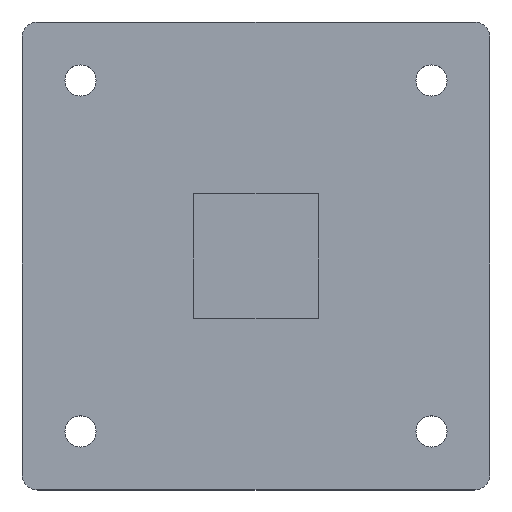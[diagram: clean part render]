
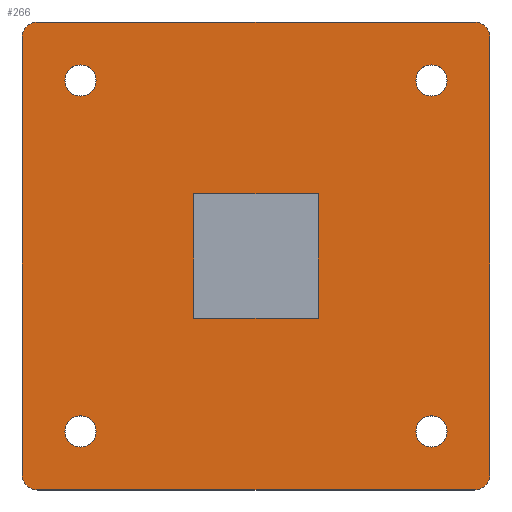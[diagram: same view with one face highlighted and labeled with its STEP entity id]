
A CAD part, top view. The second image highlights one B-rep face of the part: STEP entity #266.
In plain terms, the highlighted planar face has unit normal (0, 0, 1).
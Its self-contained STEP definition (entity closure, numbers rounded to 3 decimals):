
#248 = EDGE_CURVE( '', #274, #424, #712, .T. );
#252 = VERTEX_POINT( '', #716 );
#266 = ADVANCED_FACE( '', ( #730, #731, #732, #733, #734, #735 ), #736, .T. );
#268 = EDGE_CURVE( '', #296, #274, #738, .T. );
#274 = VERTEX_POINT( '', #745 );
#286 = EDGE_CURVE( '', #340, #296, #758, .T. );
#296 = VERTEX_POINT( '', #769 );
#300 = VERTEX_POINT( '', #774 );
#306 = EDGE_CURVE( '', #252, #648, #780, .T. );
#308 = EDGE_CURVE( '', #342, #340, #782, .T. );
#334 = EDGE_CURVE( '', #364, #342, #810, .T. );
#340 = VERTEX_POINT( '', #816 );
#342 = VERTEX_POINT( '', #818 );
#358 = EDGE_CURVE( '', #384, #364, #836, .T. );
#364 = VERTEX_POINT( '', #843 );
#382 = EDGE_CURVE( '', #420, #384, #861, .T. );
#384 = VERTEX_POINT( '', #863 );
#394 = VERTEX_POINT( '', #875 );
#416 = EDGE_CURVE( '', #424, #420, #898, .T. );
#420 = VERTEX_POINT( '', #902 );
#424 = VERTEX_POINT( '', #907 );
#430 = EDGE_CURVE( '', #660, #548, #913, .T. );
#432 = EDGE_CURVE( '', #672, #584, #915, .T. );
#436 = EDGE_CURVE( '', #394, #300, #919, .T. );
#444 = EDGE_CURVE( '', #648, #252, #927, .T. );
#446 = EDGE_CURVE( '', #584, #672, #929, .T. );
#464 = EDGE_CURVE( '', #494, #592, #950, .T. );
#486 = EDGE_CURVE( '', #538, #494, #973, .T. );
#494 = VERTEX_POINT( '', #982 );
#522 = EDGE_CURVE( '', #548, #660, #1013, .T. );
#530 = EDGE_CURVE( '', #582, #538, #1023, .T. );
#538 = VERTEX_POINT( '', #1032 );
#548 = VERTEX_POINT( '', #1042 );
#556 = EDGE_CURVE( '', #300, #394, #1052, .T. );
#572 = EDGE_CURVE( '', #592, #582, #1070, .T. );
#582 = VERTEX_POINT( '', #1081 );
#584 = VERTEX_POINT( '', #1083 );
#592 = VERTEX_POINT( '', #1092 );
#648 = VERTEX_POINT( '', #1164 );
#660 = VERTEX_POINT( '', #1176 );
#672 = VERTEX_POINT( '', #1189 );
#712 = CIRCLE( '', #1223, 2. );
#716 = CARTESIAN_POINT( '', ( -24.5, 22.5, 0. ) );
#730 = FACE_BOUND( '', #1250, .T. );
#731 = FACE_OUTER_BOUND( '', #1251, .T. );
#732 = FACE_BOUND( '', #1252, .T. );
#733 = FACE_BOUND( '', #1253, .T. );
#734 = FACE_BOUND( '', #1254, .T. );
#735 = FACE_BOUND( '', #1255, .T. );
#736 = PLANE( '', #1256 );
#738 = LINE( '', #1259, #1260 );
#745 = CARTESIAN_POINT( '', ( -28., -30., 0. ) );
#758 = CIRCLE( '', #1285, 2. );
#769 = CARTESIAN_POINT( '', ( 28., -30., 0. ) );
#774 = CARTESIAN_POINT( '', ( -24.5, -22.5, 0. ) );
#780 = CIRCLE( '', #1317, 2. );
#782 = LINE( '', #1320, #1321 );
#810 = CIRCLE( '', #1360, 2. );
#816 = CARTESIAN_POINT( '', ( 30., -28., 0. ) );
#818 = CARTESIAN_POINT( '', ( 30., 28., 0. ) );
#836 = LINE( '', #1397, #1398 );
#843 = CARTESIAN_POINT( '', ( 28., 30., 0. ) );
#861 = CIRCLE( '', #1436, 2. );
#863 = CARTESIAN_POINT( '', ( -28., 30., 0. ) );
#875 = CARTESIAN_POINT( '', ( -20.5, -22.5, 0. ) );
#898 = LINE( '', #1485, #1486 );
#902 = CARTESIAN_POINT( '', ( -30., 28., 0. ) );
#907 = CARTESIAN_POINT( '', ( -30., -28., 0. ) );
#913 = CIRCLE( '', #1502, 2. );
#915 = CIRCLE( '', #1505, 2. );
#919 = CIRCLE( '', #1512, 2. );
#927 = CIRCLE( '', #1527, 2. );
#929 = CIRCLE( '', #1530, 2. );
#950 = LINE( '', #1557, #1558 );
#973 = LINE( '', #1588, #1589 );
#982 = CARTESIAN_POINT( '', ( 8., 8., 0. ) );
#1013 = CIRCLE( '', #1647, 2. );
#1023 = LINE( '', #1660, #1661 );
#1032 = CARTESIAN_POINT( '', ( -8., 8., 0. ) );
#1042 = CARTESIAN_POINT( '', ( 20.5, -22.5, 0. ) );
#1052 = CIRCLE( '', #1699, 2. );
#1070 = LINE( '', #1723, #1724 );
#1081 = CARTESIAN_POINT( '', ( -8., -8., 0. ) );
#1083 = CARTESIAN_POINT( '', ( 20.5, 22.5, 0. ) );
#1092 = CARTESIAN_POINT( '', ( 8., -8., 0. ) );
#1164 = CARTESIAN_POINT( '', ( -20.5, 22.5, 0. ) );
#1176 = CARTESIAN_POINT( '', ( 24.5, -22.5, 0. ) );
#1189 = CARTESIAN_POINT( '', ( 24.5, 22.5, 0. ) );
#1223 = AXIS2_PLACEMENT_3D( '', #1917, #1918, #1919 );
#1250 = EDGE_LOOP( '', ( #1927, #1928, #1929, #1930 ) );
#1251 = EDGE_LOOP( '', ( #1931, #1932, #1933, #1934, #1935, #1936, #1937, #1938 ) );
#1252 = EDGE_LOOP( '', ( #1939, #1940 ) );
#1253 = EDGE_LOOP( '', ( #1941, #1942 ) );
#1254 = EDGE_LOOP( '', ( #1943, #1944 ) );
#1255 = EDGE_LOOP( '', ( #1945, #1946 ) );
#1256 = AXIS2_PLACEMENT_3D( '', #1947, #1948, #1949 );
#1259 = CARTESIAN_POINT( '', ( -28., -30., 0. ) );
#1260 = VECTOR( '', #1950, 1. );
#1285 = AXIS2_PLACEMENT_3D( '', #1969, #1970, #1971 );
#1317 = AXIS2_PLACEMENT_3D( '', #1995, #1996, #1997 );
#1320 = CARTESIAN_POINT( '', ( 30., -28., 0. ) );
#1321 = VECTOR( '', #1998, 1. );
#1360 = AXIS2_PLACEMENT_3D( '', #2020, #2021, #2022 );
#1397 = CARTESIAN_POINT( '', ( 28., 30., 0. ) );
#1398 = VECTOR( '', #2044, 1. );
#1436 = AXIS2_PLACEMENT_3D( '', #2059, #2060, #2061 );
#1485 = CARTESIAN_POINT( '', ( -30., 28., 0. ) );
#1486 = VECTOR( '', #2090, 1. );
#1502 = AXIS2_PLACEMENT_3D( '', #2099, #2100, #2101 );
#1505 = AXIS2_PLACEMENT_3D( '', #2102, #2103, #2104 );
#1512 = AXIS2_PLACEMENT_3D( '', #2106, #2107, #2108 );
#1527 = AXIS2_PLACEMENT_3D( '', #2112, #2113, #2114 );
#1530 = AXIS2_PLACEMENT_3D( '', #2115, #2116, #2117 );
#1557 = CARTESIAN_POINT( '', ( 8., 4., 0. ) );
#1558 = VECTOR( '', #2147, 1. );
#1588 = CARTESIAN_POINT( '', ( -4., 8., 0. ) );
#1589 = VECTOR( '', #2159, 1. );
#1647 = AXIS2_PLACEMENT_3D( '', #2203, #2204, #2205 );
#1660 = CARTESIAN_POINT( '', ( -8., -4., 0. ) );
#1661 = VECTOR( '', #2219, 1. );
#1699 = AXIS2_PLACEMENT_3D( '', #2248, #2249, #2250 );
#1723 = CARTESIAN_POINT( '', ( 4., -8., 0. ) );
#1724 = VECTOR( '', #2272, 1. );
#1917 = CARTESIAN_POINT( '', ( -28., -28., 0. ) );
#1918 = DIRECTION( '', ( 0., 0., -1. ) );
#1919 = DIRECTION( '', ( -1., 0., 0. ) );
#1927 = ORIENTED_EDGE( '', *, *, #486, .T. );
#1928 = ORIENTED_EDGE( '', *, *, #464, .T. );
#1929 = ORIENTED_EDGE( '', *, *, #572, .T. );
#1930 = ORIENTED_EDGE( '', *, *, #530, .T. );
#1931 = ORIENTED_EDGE( '', *, *, #416, .F. );
#1932 = ORIENTED_EDGE( '', *, *, #248, .F. );
#1933 = ORIENTED_EDGE( '', *, *, #268, .F. );
#1934 = ORIENTED_EDGE( '', *, *, #286, .F. );
#1935 = ORIENTED_EDGE( '', *, *, #308, .F. );
#1936 = ORIENTED_EDGE( '', *, *, #334, .F. );
#1937 = ORIENTED_EDGE( '', *, *, #358, .F. );
#1938 = ORIENTED_EDGE( '', *, *, #382, .F. );
#1939 = ORIENTED_EDGE( '', *, *, #430, .F. );
#1940 = ORIENTED_EDGE( '', *, *, #522, .F. );
#1941 = ORIENTED_EDGE( '', *, *, #432, .F. );
#1942 = ORIENTED_EDGE( '', *, *, #446, .F. );
#1943 = ORIENTED_EDGE( '', *, *, #436, .F. );
#1944 = ORIENTED_EDGE( '', *, *, #556, .F. );
#1945 = ORIENTED_EDGE( '', *, *, #444, .F. );
#1946 = ORIENTED_EDGE( '', *, *, #306, .F. );
#1947 = CARTESIAN_POINT( '', ( 0., 0., 0. ) );
#1948 = DIRECTION( '', ( 0., 0., 1. ) );
#1949 = DIRECTION( '', ( 1., 0., 0. ) );
#1950 = DIRECTION( '', ( -1., 0., 0. ) );
#1969 = CARTESIAN_POINT( '', ( 28., -28., 0. ) );
#1970 = DIRECTION( '', ( 0., 0., -1. ) );
#1971 = DIRECTION( '', ( 0., -1., 0. ) );
#1995 = CARTESIAN_POINT( '', ( -22.5, 22.5, 0. ) );
#1996 = DIRECTION( '', ( 0., 0., 1. ) );
#1997 = DIRECTION( '', ( 1., 0., 0. ) );
#1998 = DIRECTION( '', ( 0., -1., 0. ) );
#2020 = CARTESIAN_POINT( '', ( 28., 28., 0. ) );
#2021 = DIRECTION( '', ( 0., 0., -1. ) );
#2022 = DIRECTION( '', ( 1., 0., 0. ) );
#2044 = DIRECTION( '', ( 1., 0., 0. ) );
#2059 = CARTESIAN_POINT( '', ( -28., 28., 0. ) );
#2060 = DIRECTION( '', ( 0., 0., -1. ) );
#2061 = DIRECTION( '', ( 0., 1., 0. ) );
#2090 = DIRECTION( '', ( 0., 1., 0. ) );
#2099 = CARTESIAN_POINT( '', ( 22.5, -22.5, 0. ) );
#2100 = DIRECTION( '', ( 0., 0., 1. ) );
#2101 = DIRECTION( '', ( 1., 0., 0. ) );
#2102 = CARTESIAN_POINT( '', ( 22.5, 22.5, 0. ) );
#2103 = DIRECTION( '', ( 0., 0., 1. ) );
#2104 = DIRECTION( '', ( 1., 0., 0. ) );
#2106 = CARTESIAN_POINT( '', ( -22.5, -22.5, 0. ) );
#2107 = DIRECTION( '', ( 0., 0., 1. ) );
#2108 = DIRECTION( '', ( 1., 0., 0. ) );
#2112 = CARTESIAN_POINT( '', ( -22.5, 22.5, 0. ) );
#2113 = DIRECTION( '', ( 0., 0., 1. ) );
#2114 = DIRECTION( '', ( 1., 0., 0. ) );
#2115 = CARTESIAN_POINT( '', ( 22.5, 22.5, 0. ) );
#2116 = DIRECTION( '', ( 0., 0., 1. ) );
#2117 = DIRECTION( '', ( 1., 0., 0. ) );
#2147 = DIRECTION( '', ( 0., -1., 0. ) );
#2159 = DIRECTION( '', ( 1., 0., 0. ) );
#2203 = CARTESIAN_POINT( '', ( 22.5, -22.5, 0. ) );
#2204 = DIRECTION( '', ( 0., 0., 1. ) );
#2205 = DIRECTION( '', ( 1., 0., 0. ) );
#2219 = DIRECTION( '', ( 0., 1., 0. ) );
#2248 = CARTESIAN_POINT( '', ( -22.5, -22.5, 0. ) );
#2249 = DIRECTION( '', ( 0., 0., 1. ) );
#2250 = DIRECTION( '', ( 1., 0., 0. ) );
#2272 = DIRECTION( '', ( -1., 0., 0. ) );
